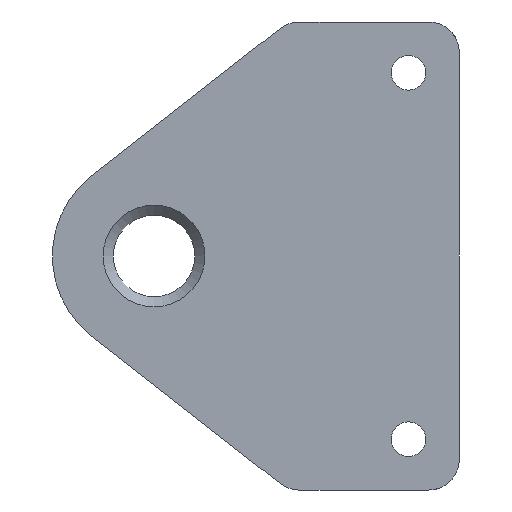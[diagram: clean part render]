
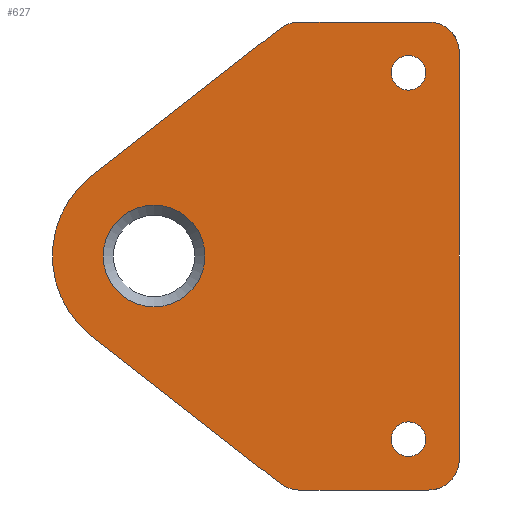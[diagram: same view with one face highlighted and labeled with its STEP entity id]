
A CAD part, front view. The second image highlights one B-rep face of the part: STEP entity #627.
In plain terms, the highlighted planar face has unit normal (0, -1, 0).
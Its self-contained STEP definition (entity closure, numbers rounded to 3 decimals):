
#40=FACE_BOUND('',#118,.T.);
#41=FACE_BOUND('',#119,.T.);
#42=FACE_BOUND('',#120,.T.);
#46=PLANE('',#695);
#76=FACE_OUTER_BOUND('',#117,.T.);
#117=EDGE_LOOP('',(#440,#441,#442,#443,#444,#445,#446,#447,#448,#449));
#118=EDGE_LOOP('',(#450));
#119=EDGE_LOOP('',(#451));
#120=EDGE_LOOP('',(#452));
#164=LINE('',#996,#198);
#165=LINE('',#1000,#199);
#166=LINE('',#1004,#200);
#167=LINE('',#1008,#201);
#168=LINE('',#1012,#202);
#198=VECTOR('',#792,10.);
#199=VECTOR('',#795,10.);
#200=VECTOR('',#798,10.);
#201=VECTOR('',#801,10.);
#202=VECTOR('',#804,10.);
#230=CIRCLE('',#690,5.);
#234=CIRCLE('',#696,3.);
#235=CIRCLE('',#697,3.);
#236=CIRCLE('',#698,10.);
#237=CIRCLE('',#699,3.);
#238=CIRCLE('',#700,3.);
#239=CIRCLE('',#701,1.7);
#240=CIRCLE('',#702,1.7);
#278=VERTEX_POINT('',#982);
#282=VERTEX_POINT('',#994);
#283=VERTEX_POINT('',#995);
#284=VERTEX_POINT('',#997);
#285=VERTEX_POINT('',#999);
#286=VERTEX_POINT('',#1001);
#287=VERTEX_POINT('',#1003);
#288=VERTEX_POINT('',#1005);
#289=VERTEX_POINT('',#1007);
#290=VERTEX_POINT('',#1009);
#291=VERTEX_POINT('',#1011);
#292=VERTEX_POINT('',#1014);
#293=VERTEX_POINT('',#1016);
#335=EDGE_CURVE('',#278,#278,#230,.T.);
#341=EDGE_CURVE('',#282,#283,#164,.T.);
#342=EDGE_CURVE('',#284,#282,#234,.T.);
#343=EDGE_CURVE('',#285,#284,#165,.T.);
#344=EDGE_CURVE('',#286,#285,#235,.T.);
#345=EDGE_CURVE('',#287,#286,#166,.T.);
#346=EDGE_CURVE('',#288,#287,#236,.T.);
#347=EDGE_CURVE('',#289,#288,#167,.T.);
#348=EDGE_CURVE('',#290,#289,#237,.T.);
#349=EDGE_CURVE('',#291,#290,#168,.T.);
#350=EDGE_CURVE('',#283,#291,#238,.T.);
#351=EDGE_CURVE('',#292,#292,#239,.T.);
#352=EDGE_CURVE('',#293,#293,#240,.T.);
#440=ORIENTED_EDGE('',*,*,#341,.F.);
#441=ORIENTED_EDGE('',*,*,#342,.F.);
#442=ORIENTED_EDGE('',*,*,#343,.F.);
#443=ORIENTED_EDGE('',*,*,#344,.F.);
#444=ORIENTED_EDGE('',*,*,#345,.F.);
#445=ORIENTED_EDGE('',*,*,#346,.F.);
#446=ORIENTED_EDGE('',*,*,#347,.F.);
#447=ORIENTED_EDGE('',*,*,#348,.F.);
#448=ORIENTED_EDGE('',*,*,#349,.F.);
#449=ORIENTED_EDGE('',*,*,#350,.F.);
#450=ORIENTED_EDGE('',*,*,#351,.T.);
#451=ORIENTED_EDGE('',*,*,#352,.T.);
#452=ORIENTED_EDGE('',*,*,#335,.F.);
#627=ADVANCED_FACE('',(#76,#40,#41,#42),#46,.F.);
#690=AXIS2_PLACEMENT_3D('',#983,#778,#779);
#695=AXIS2_PLACEMENT_3D('',#993,#790,#791);
#696=AXIS2_PLACEMENT_3D('',#998,#793,#794);
#697=AXIS2_PLACEMENT_3D('',#1002,#796,#797);
#698=AXIS2_PLACEMENT_3D('',#1006,#799,#800);
#699=AXIS2_PLACEMENT_3D('',#1010,#802,#803);
#700=AXIS2_PLACEMENT_3D('',#1013,#805,#806);
#701=AXIS2_PLACEMENT_3D('',#1015,#807,#808);
#702=AXIS2_PLACEMENT_3D('',#1017,#809,#810);
#778=DIRECTION('center_axis',(0.,-1.,0.));
#779=DIRECTION('ref_axis',(1.,0.,0.));
#790=DIRECTION('center_axis',(0.,1.,0.));
#791=DIRECTION('ref_axis',(0.,0.,1.));
#792=DIRECTION('',(0.,0.,-1.));
#793=DIRECTION('center_axis',(0.,1.,0.));
#794=DIRECTION('ref_axis',(0.,0.,1.));
#795=DIRECTION('',(1.,0.,0.));
#796=DIRECTION('center_axis',(0.,1.,0.));
#797=DIRECTION('ref_axis',(-0.616,0.,0.788));
#798=DIRECTION('',(0.788,0.,0.616));
#799=DIRECTION('center_axis',(0.,1.,0.));
#800=DIRECTION('ref_axis',(-0.616,0.,-0.788));
#801=DIRECTION('',(-0.788,0.,0.616));
#802=DIRECTION('center_axis',(0.,1.,0.));
#803=DIRECTION('ref_axis',(0.,0.,-1.));
#804=DIRECTION('',(-1.,0.,0.));
#805=DIRECTION('center_axis',(0.,1.,0.));
#806=DIRECTION('ref_axis',(1.,0.,0.));
#807=DIRECTION('center_axis',(0.,1.,0.));
#808=DIRECTION('ref_axis',(1.,0.,0.));
#809=DIRECTION('center_axis',(0.,1.,0.));
#810=DIRECTION('ref_axis',(1.,0.,0.));
#982=CARTESIAN_POINT('',(-35.,0.,0.));
#983=CARTESIAN_POINT('Origin',(-30.,0.,0.));
#993=CARTESIAN_POINT('Origin',(-20.,0.,0.));
#994=CARTESIAN_POINT('',(0.,0.,20.));
#995=CARTESIAN_POINT('',(0.,0.,-20.));
#996=CARTESIAN_POINT('',(0.,0.,20.));
#997=CARTESIAN_POINT('',(-3.,0.,23.));
#998=CARTESIAN_POINT('Origin',(-3.,0.,20.));
#999=CARTESIAN_POINT('',(-15.771,0.,23.));
#1000=CARTESIAN_POINT('',(-15.771,0.,23.));
#1001=CARTESIAN_POINT('',(-17.618,0.,22.364));
#1002=CARTESIAN_POINT('Origin',(-15.771,0.,20.));
#1003=CARTESIAN_POINT('',(-36.157,0.,7.88));
#1004=CARTESIAN_POINT('',(-36.157,0.,7.88));
#1005=CARTESIAN_POINT('',(-36.157,0.,-7.88));
#1006=CARTESIAN_POINT('Origin',(-30.,0.,0.));
#1007=CARTESIAN_POINT('',(-17.618,0.,-22.364));
#1008=CARTESIAN_POINT('',(-17.618,0.,-22.364));
#1009=CARTESIAN_POINT('',(-15.771,0.,-23.));
#1010=CARTESIAN_POINT('Origin',(-15.771,0.,-20.));
#1011=CARTESIAN_POINT('',(-3.,0.,-23.));
#1012=CARTESIAN_POINT('',(-3.,0.,-23.));
#1013=CARTESIAN_POINT('Origin',(-3.,0.,-20.));
#1014=CARTESIAN_POINT('',(-6.7,0.,-18.));
#1015=CARTESIAN_POINT('Origin',(-5.,0.,-18.));
#1016=CARTESIAN_POINT('',(-6.7,0.,18.));
#1017=CARTESIAN_POINT('Origin',(-5.,0.,18.));
